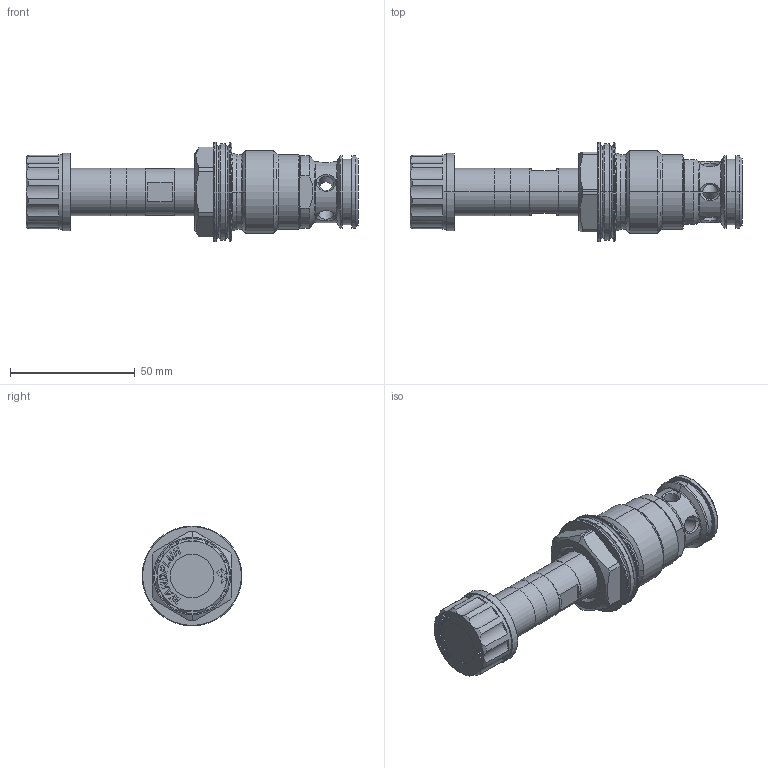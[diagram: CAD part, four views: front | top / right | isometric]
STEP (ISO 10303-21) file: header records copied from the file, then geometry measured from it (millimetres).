
FILE_DESCRIPTION (( 'STEP AP214' ), '1' );
FILE_NAME ('QSPPM33.STEP', '2014-01-29T12:09:47', ( '' ), ( '' ), 'SwSTEP 2.0', 'SolidWorks 2012', '' );
FILE_SCHEMA (( 'AUTOMOTIVE_DESIGN' ));
Length unit declared in the file: millimetre
Products named in the file (1): QSPPM33
Bounding box: 133.05 x 40 x 40 mm (x, y, z)
Volume: 73358.9 mm3; surface area: 23660.8 mm2
Topology: 6 solids, 6 shells, 708 faces, 1758 edges, 1092 vertices
Faces by surface type: plane 469, cylinder 101, cone 79, torus 43, bspline 16
Entity records: 29965 total; most frequent: CARTESIAN_POINT 5174, ORIENTED_EDGE 3512, DIRECTION 3509, EDGE_CURVE 1756, VECTOR 1211, LINE 1211, AXIS2_PLACEMENT_3D 1149, VERTEX_POINT 1092
